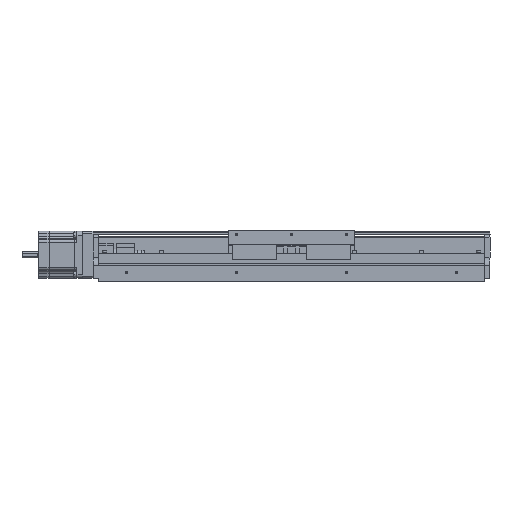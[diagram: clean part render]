
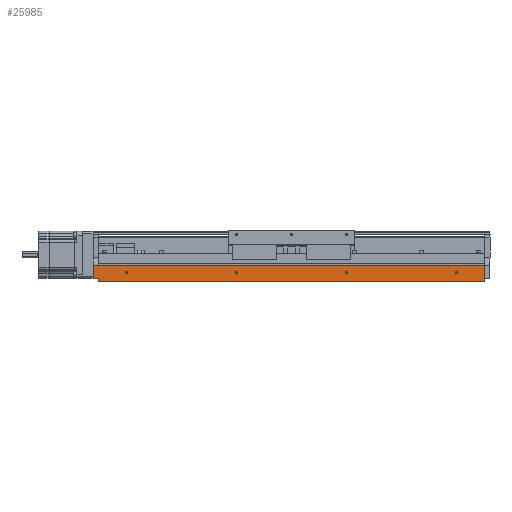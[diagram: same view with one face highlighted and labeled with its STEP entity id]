
A CAD part, front view. The second image highlights one B-rep face of the part: STEP entity #25985.
In plain terms, the highlighted planar face has unit normal (0, -1, 0).
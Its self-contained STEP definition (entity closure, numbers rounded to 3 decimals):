
#424 = VERTEX_POINT ( 'NONE', #6994 ) ;
#713 = CARTESIAN_POINT ( 'NONE',  ( -375.419, 26.091, -597.164 ) ) ;
#1383 = CARTESIAN_POINT ( 'NONE',  ( -59.419, 26.091, -606.664 ) ) ;
#1488 = EDGE_CURVE ( 'NONE', #19848, #24081, #65226, .T. ) ;
#2516 = EDGE_CURVE ( 'NONE', #71713, #67180, #18899, .T. ) ;
#2531 = CARTESIAN_POINT ( 'NONE',  ( -375.419, 26.091, -618.164 ) ) ;
#2655 = AXIS2_PLACEMENT_3D ( 'NONE', #68208, #61537, #30673 ) ;
#3706 = DIRECTION ( 'NONE',  ( 1., 0., 0. ) ) ;
#4120 = CIRCLE ( 'NONE', #23921, 1.5 ) ;
#4491 = DIRECTION ( 'NONE',  ( 1., 0., 0. ) ) ;
#5313 = CARTESIAN_POINT ( 'NONE',  ( 116.581, 26.091, -597.164 ) ) ;
#5665 = CARTESIAN_POINT ( 'NONE',  ( -59.419, 26.091, -606.664 ) ) ;
#6217 = DIRECTION ( 'NONE',  ( 0., -1., 0. ) ) ;
#6371 = CARTESIAN_POINT ( 'NONE',  ( -339.419, 26.091, -606.664 ) ) ;
#6994 = CARTESIAN_POINT ( 'NONE',  ( -60.919, 26.091, -606.664 ) ) ;
#7311 = EDGE_CURVE ( 'NONE', #59857, #51376, #44665, .T. ) ;
#7493 = CIRCLE ( 'NONE', #31145, 1.5 ) ;
#7724 = EDGE_LOOP ( 'NONE', ( #56477, #69138 ) ) ;
#8155 = VECTOR ( 'NONE', #30166, 1000. ) ;
#9895 = CARTESIAN_POINT ( 'NONE',  ( -339.419, 26.091, -606.664 ) ) ;
#11561 = CARTESIAN_POINT ( 'NONE',  ( -375.419, 26.091, -597.164 ) ) ;
#14310 = DIRECTION ( 'NONE',  ( 0., -1., 0. ) ) ;
#14833 = VECTOR ( 'NONE', #19239, 1000. ) ;
#16239 = EDGE_CURVE ( 'NONE', #50946, #24222, #50908, .T. ) ;
#16446 = DIRECTION ( 'NONE',  ( 1., 0., 0. ) ) ;
#16544 = DIRECTION ( 'NONE',  ( 0., -1., 0. ) ) ;
#18402 = DIRECTION ( 'NONE',  ( 0., 0., -1. ) ) ;
#18449 = ORIENTED_EDGE ( 'NONE', *, *, #43067, .F. ) ;
#18899 = LINE ( 'NONE', #713, #45807 ) ;
#19239 = DIRECTION ( 'NONE',  ( 1., 0., 0. ) ) ;
#19848 = VERTEX_POINT ( 'NONE', #26034 ) ;
#19894 = CARTESIAN_POINT ( 'NONE',  ( 79.081, 26.091, -606.664 ) ) ;
#20432 = VECTOR ( 'NONE', #18402, 1000. ) ;
#20845 = VERTEX_POINT ( 'NONE', #24786 ) ;
#21488 = VERTEX_POINT ( 'NONE', #50636 ) ;
#22507 = CIRCLE ( 'NONE', #55010, 1.5 ) ;
#22735 = CARTESIAN_POINT ( 'NONE',  ( -57.919, 26.091, -606.664 ) ) ;
#23839 = ORIENTED_EDGE ( 'NONE', *, *, #65057, .T. ) ;
#23921 = AXIS2_PLACEMENT_3D ( 'NONE', #5665, #6217, #66579 ) ;
#24019 = FACE_BOUND ( 'NONE', #35633, .T. ) ;
#24081 = VERTEX_POINT ( 'NONE', #19894 ) ;
#24222 = VERTEX_POINT ( 'NONE', #71910 ) ;
#24786 = CARTESIAN_POINT ( 'NONE',  ( 116.581, 26.091, -618.164 ) ) ;
#25806 = ORIENTED_EDGE ( 'NONE', *, *, #57130, .F. ) ;
#25985 = ADVANCED_FACE ( 'NONE', ( #32673, #29806, #24019, #48047, #38435 ), #29792, .T. ) ;
#26034 = CARTESIAN_POINT ( 'NONE',  ( 82.081, 26.091, -606.664 ) ) ;
#26048 = DIRECTION ( 'NONE',  ( 1., 0., 0. ) ) ;
#27169 = EDGE_CURVE ( 'NONE', #24222, #50946, #54607, .T. ) ;
#28931 = EDGE_LOOP ( 'NONE', ( #18449, #71623 ) ) ;
#29792 = PLANE ( 'NONE',  #61211 ) ;
#29806 = FACE_BOUND ( 'NONE', #60097, .T. ) ;
#29827 = CARTESIAN_POINT ( 'NONE',  ( -200.919, 26.091, -606.664 ) ) ;
#30166 = DIRECTION ( 'NONE',  ( 1., 0., 0. ) ) ;
#30431 = CARTESIAN_POINT ( 'NONE',  ( -375.419, 26.091, -597.164 ) ) ;
#30673 = DIRECTION ( 'NONE',  ( 1., 0., 0. ) ) ;
#30977 = EDGE_CURVE ( 'NONE', #59857, #68400, #53094, .T. ) ;
#31122 = CARTESIAN_POINT ( 'NONE',  ( -375.419, 26.091, -618.164 ) ) ;
#31145 = AXIS2_PLACEMENT_3D ( 'NONE', #77653, #53244, #16446 ) ;
#31336 = DIRECTION ( 'NONE',  ( 0., 0., -1. ) ) ;
#32054 = CARTESIAN_POINT ( 'NONE',  ( 80.581, 26.091, -606.664 ) ) ;
#32673 = FACE_BOUND ( 'NONE', #7724, .T. ) ;
#34282 = DIRECTION ( 'NONE',  ( 1., 0., 0. ) ) ;
#34795 = DIRECTION ( 'NONE',  ( 0., -1., 0. ) ) ;
#35633 = EDGE_LOOP ( 'NONE', ( #65625, #70470 ) ) ;
#35955 = ORIENTED_EDGE ( 'NONE', *, *, #73098, .F. ) ;
#36933 = VERTEX_POINT ( 'NONE', #22735 ) ;
#38435 = FACE_OUTER_BOUND ( 'NONE', #44179, .T. ) ;
#38772 = CARTESIAN_POINT ( 'NONE',  ( -382.419, 26.091, -597.164 ) ) ;
#39356 = EDGE_CURVE ( 'NONE', #51376, #20845, #63892, .T. ) ;
#39581 = AXIS2_PLACEMENT_3D ( 'NONE', #9895, #16544, #3706 ) ;
#42424 = DIRECTION ( 'NONE',  ( 0., -1., 0. ) ) ;
#43067 = EDGE_CURVE ( 'NONE', #62310, #21488, #56746, .T. ) ;
#43465 = CARTESIAN_POINT ( 'NONE',  ( -337.919, 26.091, -606.664 ) ) ;
#44179 = EDGE_LOOP ( 'NONE', ( #74397, #74474, #55901, #23839, #62875, #78034 ) ) ;
#44665 = LINE ( 'NONE', #30431, #8155 ) ;
#45807 = VECTOR ( 'NONE', #31336, 1000. ) ;
#46238 = CIRCLE ( 'NONE', #76971, 1.5 ) ;
#46503 = EDGE_CURVE ( 'NONE', #67180, #20845, #58071, .T. ) ;
#47797 = CARTESIAN_POINT ( 'NONE',  ( -382.419, 26.091, -614.164 ) ) ;
#48047 = FACE_BOUND ( 'NONE', #28931, .T. ) ;
#48326 = EDGE_CURVE ( 'NONE', #21488, #62310, #46238, .T. ) ;
#49812 = DIRECTION ( 'NONE',  ( 1., 0., 0. ) ) ;
#50636 = CARTESIAN_POINT ( 'NONE',  ( -340.919, 26.091, -606.664 ) ) ;
#50908 = CIRCLE ( 'NONE', #77493, 1.5 ) ;
#50946 = VERTEX_POINT ( 'NONE', #29827 ) ;
#51376 = VERTEX_POINT ( 'NONE', #5313 ) ;
#51395 = VECTOR ( 'NONE', #54492, 1000. ) ;
#53067 = CARTESIAN_POINT ( 'NONE',  ( -378.919, 26.091, -614.164 ) ) ;
#53094 = LINE ( 'NONE', #67557, #20432 ) ;
#53244 = DIRECTION ( 'NONE',  ( 0., -1., 0. ) ) ;
#53681 = DIRECTION ( 'NONE',  ( -1., 0., 0. ) ) ;
#53954 = CARTESIAN_POINT ( 'NONE',  ( 116.581, 26.091, -597.164 ) ) ;
#54492 = DIRECTION ( 'NONE',  ( 0., 0., -1. ) ) ;
#54607 = CIRCLE ( 'NONE', #2655, 1.5 ) ;
#55010 = AXIS2_PLACEMENT_3D ( 'NONE', #1383, #74402, #26048 ) ;
#55901 = ORIENTED_EDGE ( 'NONE', *, *, #30977, .T. ) ;
#56477 = ORIENTED_EDGE ( 'NONE', *, *, #1488, .F. ) ;
#56746 = CIRCLE ( 'NONE', #39581, 1.5 ) ;
#57009 = DIRECTION ( 'NONE',  ( 1., 0., 0. ) ) ;
#57130 = EDGE_CURVE ( 'NONE', #424, #36933, #4120, .T. ) ;
#58071 = LINE ( 'NONE', #31122, #14833 ) ;
#58752 = CARTESIAN_POINT ( 'NONE',  ( -199.419, 26.091, -606.664 ) ) ;
#59857 = VERTEX_POINT ( 'NONE', #38772 ) ;
#60097 = EDGE_LOOP ( 'NONE', ( #35955, #25806 ) ) ;
#61211 = AXIS2_PLACEMENT_3D ( 'NONE', #11561, #42424, #53681 ) ;
#61537 = DIRECTION ( 'NONE',  ( 0., -1., 0. ) ) ;
#62310 = VERTEX_POINT ( 'NONE', #43465 ) ;
#62875 = ORIENTED_EDGE ( 'NONE', *, *, #2516, .T. ) ;
#63047 = VECTOR ( 'NONE', #34282, 1000. ) ;
#63892 = LINE ( 'NONE', #53954, #51395 ) ;
#63965 = LINE ( 'NONE', #53067, #63047 ) ;
#65057 = EDGE_CURVE ( 'NONE', #68400, #71713, #63965, .T. ) ;
#65226 = CIRCLE ( 'NONE', #75634, 1.5 ) ;
#65625 = ORIENTED_EDGE ( 'NONE', *, *, #27169, .F. ) ;
#66579 = DIRECTION ( 'NONE',  ( 1., 0., 0. ) ) ;
#67180 = VERTEX_POINT ( 'NONE', #2531 ) ;
#67557 = CARTESIAN_POINT ( 'NONE',  ( -382.419, 26.091, -597.164 ) ) ;
#68208 = CARTESIAN_POINT ( 'NONE',  ( -199.419, 26.091, -606.664 ) ) ;
#68400 = VERTEX_POINT ( 'NONE', #47797 ) ;
#69138 = ORIENTED_EDGE ( 'NONE', *, *, #70711, .F. ) ;
#70470 = ORIENTED_EDGE ( 'NONE', *, *, #16239, .F. ) ;
#70711 = EDGE_CURVE ( 'NONE', #24081, #19848, #7493, .T. ) ;
#71623 = ORIENTED_EDGE ( 'NONE', *, *, #48326, .F. ) ;
#71713 = VERTEX_POINT ( 'NONE', #79095 ) ;
#71910 = CARTESIAN_POINT ( 'NONE',  ( -197.919, 26.091, -606.664 ) ) ;
#73098 = EDGE_CURVE ( 'NONE', #36933, #424, #22507, .T. ) ;
#74397 = ORIENTED_EDGE ( 'NONE', *, *, #39356, .F. ) ;
#74402 = DIRECTION ( 'NONE',  ( 0., -1., 0. ) ) ;
#74474 = ORIENTED_EDGE ( 'NONE', *, *, #7311, .F. ) ;
#75634 = AXIS2_PLACEMENT_3D ( 'NONE', #32054, #14310, #57009 ) ;
#76971 = AXIS2_PLACEMENT_3D ( 'NONE', #6371, #79368, #49812 ) ;
#77493 = AXIS2_PLACEMENT_3D ( 'NONE', #58752, #34795, #4491 ) ;
#77653 = CARTESIAN_POINT ( 'NONE',  ( 80.581, 26.091, -606.664 ) ) ;
#78034 = ORIENTED_EDGE ( 'NONE', *, *, #46503, .T. ) ;
#79095 = CARTESIAN_POINT ( 'NONE',  ( -375.419, 26.091, -614.164 ) ) ;
#79368 = DIRECTION ( 'NONE',  ( 0., -1., 0. ) ) ;
